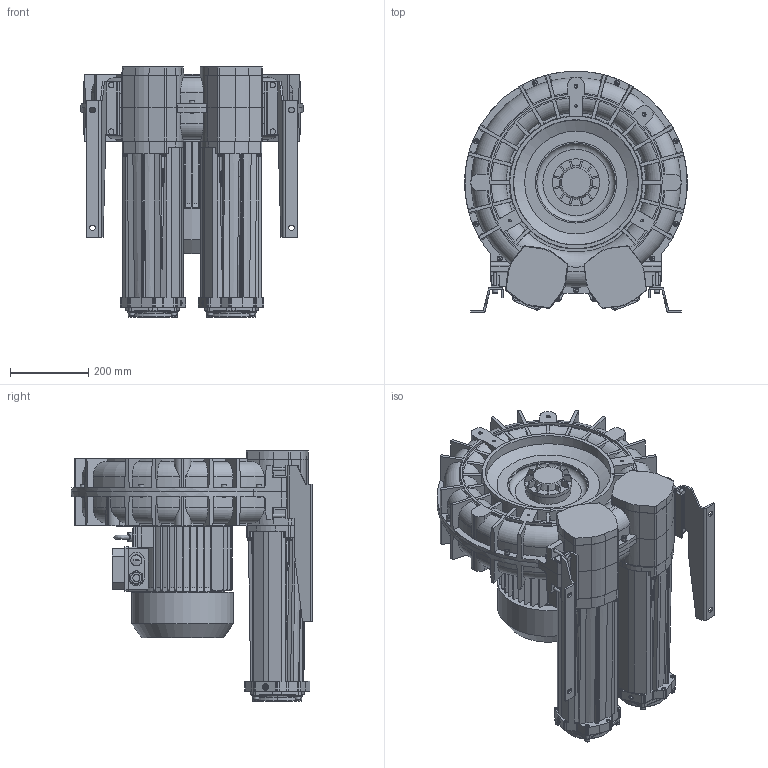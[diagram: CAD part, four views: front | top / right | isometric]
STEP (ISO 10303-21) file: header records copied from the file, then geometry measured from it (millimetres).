
FILE_DESCRIPTION (( 'STEP AP203' ), '1' );
FILE_NAME ('STP-L_e_11_MS_MOR_IE3WR_132_7.5kW-3_24-00.step', '2025-01-14T09:25:37', ( '' ), ( '' ), 'SwSTEP 2.0', 'SolidWorks 2024', '' );
FILE_SCHEMA (( 'CONFIG_CONTROL_DESIGN' ));
Length unit declared in the file: millimetre
Products named in the file (1): STP-L_e_11_MS_MOR_IE3WR_132_7.5kW-3_24-00
Bounding box: 568 x 616 x 638 mm (x, y, z)
Volume: 62539583.4 mm3; surface area: 3481737.6 mm2
Topology: 82 solids, 82 shells, 5618 faces, 14368 edges, 8930 vertices
Faces by surface type: plane 1912, cylinder 1847, bspline 826, torus 499, cone 477, sphere 57
Full cylindrical faces by diameter (mm): 6.8 x24, 7.5 x4, 8 x33, 8.4 x29, 8.5 x10, 8.566 x2, 8.8 x4, 9.98 x2, 10 x3, 11 x8, 12 x2, 12.02 x2, 13 x46, 14 x14, 16 x4, 16.5 x2, 18 x1, 19 x1, 20 x2, 21.4 x1, 24 x4, 25 x3, 28 x1, 110.4 x2, 115 x2, 120 x1, 128 x2, 207 x3, 213 x1, 259 x1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
Entity records: 269033 total; most frequent: CARTESIAN_POINT 143891, ORIENTED_EDGE 27342, DIRECTION 24006, EDGE_CURVE 13671, AXIS2_PLACEMENT_3D 9223, VERTEX_POINT 8727, EDGE_LOOP 6272, FACE_OUTER_BOUND 5908
